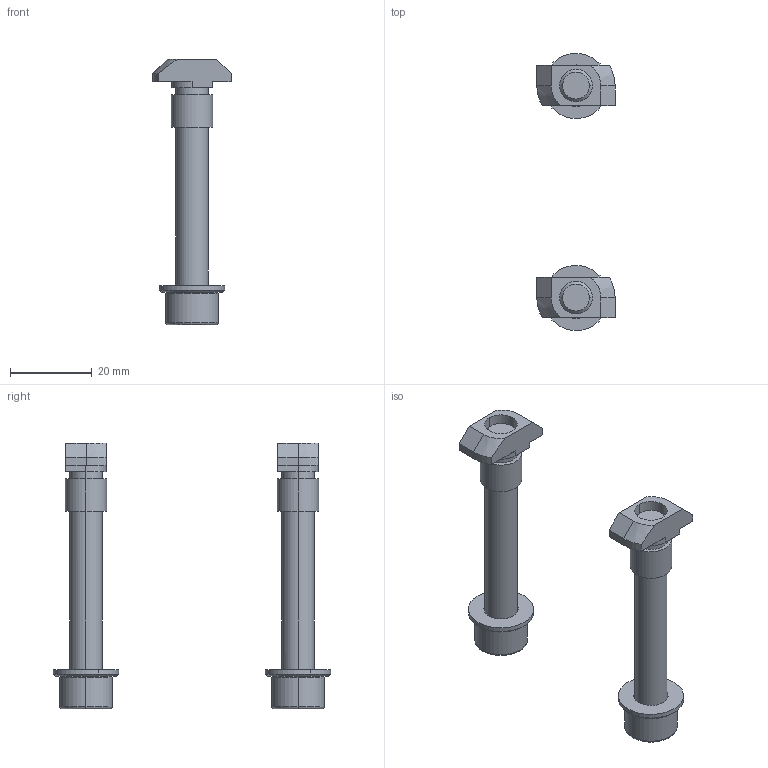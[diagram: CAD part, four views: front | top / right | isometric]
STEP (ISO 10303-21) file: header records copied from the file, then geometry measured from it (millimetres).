
FILE_DESCRIPTION (( 'STEP AP203' ), '1' );
FILE_NAME ('75000020.STEP', '2016-11-21T09:15:50', ( '' ), ( '' ), 'SwSTEP 2.0', 'SolidWorks 2015', '' );
FILE_SCHEMA (( 'CONFIG_CONTROL_DESIGN' ));
Length unit declared in the file: millimetre
Products named in the file (1): 75000020
Bounding box: 19.2 x 67.98 x 65.1 mm (x, y, z)
Volume: 9630.4 mm3; surface area: 7107.6 mm2
Topology: 2 solids, 2 shells, 116 faces, 272 edges, 172 vertices
Faces by surface type: plane 52, cylinder 44, cone 16, torus 4
Entity records: 3879 total; most frequent: CARTESIAN_POINT 1081, DIRECTION 582, ORIENTED_EDGE 544, EDGE_CURVE 272, AXIS2_PLACEMENT_3D 213, VERTEX_POINT 172, VECTOR 156, LINE 156
